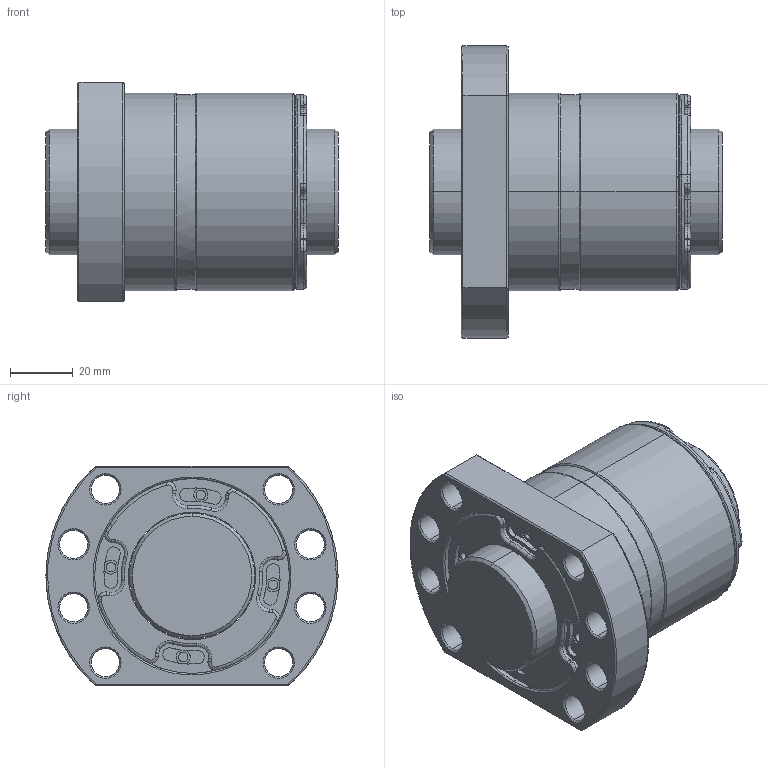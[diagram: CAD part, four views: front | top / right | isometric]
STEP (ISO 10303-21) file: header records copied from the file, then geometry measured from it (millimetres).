
FILE_DESCRIPTION (( 'STEP AP203' ), '1' );
FILE_NAME ('DFSR04005C1D-C.STEP', '2020-06-17T02:35:31', ( '' ), ( '' ), 'SwSTEP 2.0', 'SolidWorks 2013', '' );
FILE_SCHEMA (( 'CONFIG_CONTROL_DESIGN' ));
Length unit declared in the file: millimetre
Products named in the file (1): DFSR04005C1D-C
Bounding box: 93 x 93 x 70 mm (x, y, z)
Volume: 271461.9 mm3; surface area: 53723.3 mm2
Topology: 2 solids, 2 shells, 400 faces, 957 edges, 584 vertices
Faces by surface type: cylinder 190, plane 93, bspline 76, cone 41
Entity records: 15697 total; most frequent: CARTESIAN_POINT 6350, DIRECTION 2068, ORIENTED_EDGE 1914, EDGE_CURVE 957, AXIS2_PLACEMENT_3D 884, VERTEX_POINT 584, CIRCLE 559, EDGE_LOOP 445
